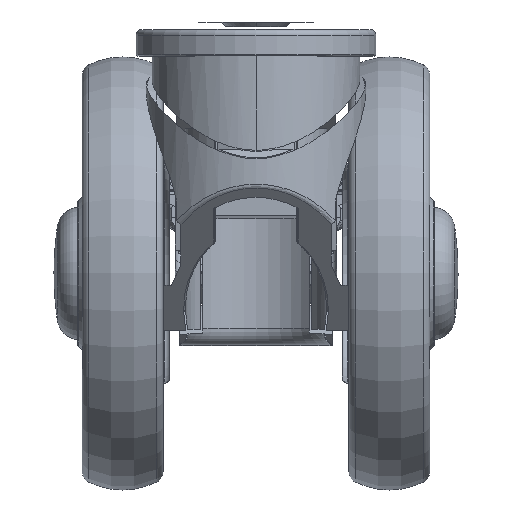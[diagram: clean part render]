
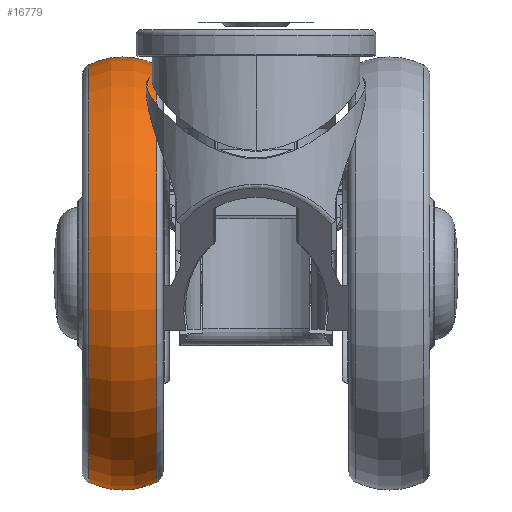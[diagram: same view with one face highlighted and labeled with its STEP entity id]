
A CAD part, top view. The second image highlights one B-rep face of the part: STEP entity #16779.
In plain terms, the highlighted toroidal (fillet/blend) face has major radius 24.25 mm and minor radius 13.25 mm.
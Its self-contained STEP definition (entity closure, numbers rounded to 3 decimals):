
#16629=CARTESIAN_POINT('',(-28.989,0.,0.));
#16630=DIRECTION('',(-1.,0.,0.));
#16631=DIRECTION('',(0.,-1.,0.));
#16632=AXIS2_PLACEMENT_3D('',#16629,#16630,#16631);
#16634=CARTESIAN_POINT('',(-17.211,0.,0.));
#16635=DIRECTION('',(-1.,0.,0.));
#16636=DIRECTION('',(0.,-1.,0.));
#16637=AXIS2_PLACEMENT_3D('',#16634,#16635,#16636);
#16674=CARTESIAN_POINT('',(-23.1,-24.25,0.));
#16675=DIRECTION('',(0.,0.,-1.));
#16676=DIRECTION('',(0.444,-0.896,0.));
#16677=AXIS2_PLACEMENT_3D('',#16674,#16675,#16676);
#16684=CARTESIAN_POINT('',(-23.1,24.25,0.));
#16685=DIRECTION('',(0.,0.,1.));
#16686=DIRECTION('',(0.444,0.896,0.));
#16687=AXIS2_PLACEMENT_3D('',#16684,#16685,#16686);
#16706=CARTESIAN_POINT('',(-28.989,-36.119,0.));
#16707=CARTESIAN_POINT('',(-28.989,36.119,0.));
#16708=VERTEX_POINT('',#16706);
#16709=VERTEX_POINT('',#16707);
#16710=CARTESIAN_POINT('',(-17.211,-36.119,
0.));
#16711=CARTESIAN_POINT('',(-17.211,36.119,0.));
#16712=VERTEX_POINT('',#16710);
#16713=VERTEX_POINT('',#16711);
#16765=CARTESIAN_POINT('',(-23.1,0.,0.));
#16766=DIRECTION('',(1.,0.,0.));
#16767=DIRECTION('',(0.,-1.,0.));
#16768=AXIS2_PLACEMENT_3D('',#16765,#16766,#16767);
#16769=TOROIDAL_SURFACE('',#16768,24.25,13.25);
#16771=ORIENTED_EDGE('',*,*,#16770,.T.);
#16773=ORIENTED_EDGE('',*,*,#16772,.F.);
#16774=ORIENTED_EDGE('',*,*,#16748,.F.);
#16776=ORIENTED_EDGE('',*,*,#16775,.T.);
#16777=EDGE_LOOP('',(#16771,#16773,#16774,#16776));
#16778=FACE_OUTER_BOUND('',#16777,.F.);
#16633=CIRCLE('',#16632,36.119);
#16638=CIRCLE('',#16637,36.119);
#16678=CIRCLE('',#16677,13.25);
#16688=CIRCLE('',#16687,13.25);
#16748=EDGE_CURVE('',#16712,#16713,#16638,.T.);
#16770=EDGE_CURVE('',#16708,#16709,#16633,.T.);
#16772=EDGE_CURVE('',#16713,#16709,#16688,.T.);
#16775=EDGE_CURVE('',#16712,#16708,#16678,.T.);
#16779=ADVANCED_FACE('',(#16778),#16769,.T.);
